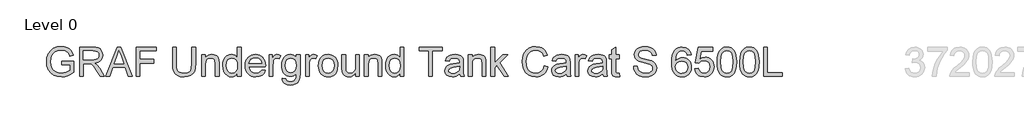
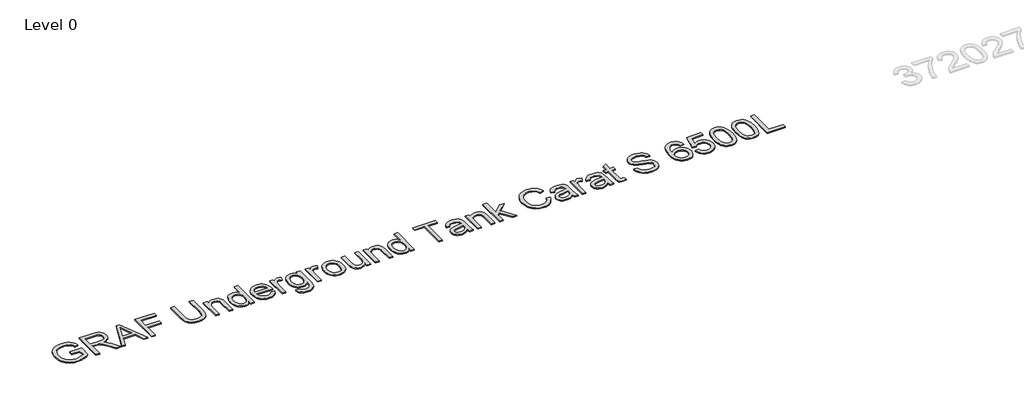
# One storey, part 13 of 20: 1 proxy.
"""IFC4 building model written with IfcOpenShell, lengths in millimetres."""

from ifc_helpers import new_model, si_unit, origin, origin_with_axes, place, context, project, spatial, polyline, outline, extrude, element, save

model = new_model("IFC4")

# Units and contexts
model_context = context("Model", 3, world=origin())
ifc_project = project(units=[si_unit("LENGTHUNIT", "METRE", prefix="MILLI")], contexts=[model_context])

# Site, building, storey
site = spatial("IfcSite", under=ifc_project)
building = spatial("IfcBuilding", under=site)
storey = spatial("IfcBuildingStorey", under=building, Name="Level 0", Elevation=0.0)

# Proxy
placement = place(None, origin())
element("IfcBuildingElementProxy", 1, Name="300mm Arial", ObjectType="300mm Arial", at=placement, inside=storey, context=model_context, shape_type="SweptSolid", body=[
    extrude(outline(polyline([(-14980.9940387, -2583.2545597), (-14980.9940387, -2545.5834434), (-14858.5629107, -2545.5834434), (-14858.5629107, -2658.2289103), (-14888.3153671, -2678.9222726), (-14919.0059225, -2693.7663111), (-14950.5610007, -2702.7058436), (-14982.9070251, -2705.6856877), (-15025.1674693, -2700.949207), (-15063.3628175, -2686.739765), (-15095.0926395, -2663.5540022), (-15117.9565055, -2631.8885595), (-15131.7796715, -2593.9047435), (-15136.3873935, -2551.7638609), (-15131.7980656, -2509.3194757), (-15118.0300819, -2469.8365406), (-15095.6536596, -2436.717964), (-15065.2390156, -2413.3666543), (-15028.1932987, -2399.5158972), (-14985.9236575, -2394.8989782), (-14954.8928112, -2397.5753197), (-14926.9889618, -2405.6043443), (-14903.4904994, -2418.4066377), (-14885.6758138, -2435.4027859), (-14872.4964413, -2457.4113262), (-14862.9039183, -2485.2507962), (-14897.6319786, -2495.0364573), (-14905.3850917, -2475.1800266), (-14914.8120678, -2460.1980323), (-14927.2832674, -2448.9040551), (-14944.169051, -2440.1116754), (-14964.3013932, -2434.4554897), (-14986.5122687, -2432.5700945), (-15012.5123287, -2434.6026425), (-15034.7415982, -2440.7002866), (-15053.1173039, -2450.0996716), (-15067.5566722, -2462.0374423), (-15086.9440533, -2491.0633317), (-15095.7732212, -2519.50061), (-15098.7162772, -2550.2187566), (-15095.175413, -2586.2436009), (-15084.5528204, -2615.8856927), (-15067.1703961, -2638.9334997), (-15043.3500369, -2655.1754898), (-15015.4737787, -2664.804801), (-14985.9236575, -2668.0145714), (-14959.831627, -2665.5957473), (-14934.3833899, -2658.3392749), (-14912.2828791, -2648.3420817), (-14896.234027, -2637.701095), (-14896.234027, -2583.2545597), (-14980.9940387, -2583.2545597)])), origin_with_axes(), (0.0, 0.0, 1.0), 10.0),
    extrude(outline(polyline([(-14797.3473467, -2700.9767982), (-14797.3473467, -2399.6078677), (-14667.4850024, -2399.6078677), (-14632.5821982, -2401.6404158), (-14607.1891434, -2407.7380598), (-14588.6294968, -2418.9952489), (-14574.2269167, -2436.5064318), (-14564.9838815, -2458.2206666), (-14561.9028698, -2482.087011), (-14567.0072325, -2511.7750881), (-14582.3203206, -2536.3863935), (-14593.9200997, -2546.4157764), (-14608.3019865, -2554.4310054), (-14645.4120827, -2564.4190016), (-14624.0013506, -2580.532233), (-14593.467145, -2619.3069952), (-14543.2144645, -2700.9767982), (-14586.9924219, -2700.9767982), (-14626.2086426, -2638.5104354), (-14654.5355562, -2597.1604991), (-14674.4379722, -2577.6259652), (-14692.3538253, -2570.4522663), (-14714.2060158, -2569.1278911), (-14759.6762304, -2569.1278911), (-14759.6762304, -2700.9767982), (-14797.3473467, -2700.9767982)]), holes=[polyline([(-14759.6762304, -2531.4567748), (-14675.3576771, -2531.4567748), (-14651.1418448, -2530.1232026), (-14632.3522719, -2526.1224859), (-14618.2072092, -2519.1879103), (-14607.9249074, -2509.0527613), (-14601.6617165, -2496.7930938), (-14599.5739861, -2483.4849626), (-14603.5563087, -2465.109257), (-14615.5032765, -2450.3020067), (-14636.058683, -2440.5347397), (-14665.8663217, -2437.278984), (-14759.6762304, -2437.278984), (-14759.6762304, -2531.4567748)])]), origin_with_axes(), (0.0, 0.0, 1.0), 10.0),
    extrude(outline(polyline([(-14531.0743586, -2700.9767982), (-14410.7769462, -2399.6078677), (-14378.6976362, -2399.6078677), (-14258.4002238, -2700.9767982), (-14298.2050557, -2700.9767982), (-14332.7123868, -2606.7990074), (-14456.835772, -2606.7990074), (-14491.2695268, -2700.9767982), (-14531.0743586, -2700.9767982)]), holes=[polyline([(-14443.003409, -2569.1278911), (-14346.4711735, -2569.1278911), (-14373.6208647, -2495.0364573), (-14394.7372912, -2437.278984), (-14413.499273, -2488.5617342), (-14443.003409, -2569.1278911)])]), origin_with_axes(), (0.0, 0.0, 1.0), 10.0),
    extrude(outline(polyline([(-14218.1539335, -2700.9767982), (-14218.1539335, -2399.6078677), (-14015.6716834, -2399.6078677), (-14015.6716834, -2437.278984), (-14180.4828172, -2437.278984), (-14180.4828172, -2526.7478853), (-14039.2161311, -2526.7478853), (-14039.2161311, -2564.4190016), (-14180.4828172, -2564.4190016), (-14180.4828172, -2700.9767982), (-14218.1539335, -2700.9767982)])), origin_with_axes(), (0.0, 0.0, 1.0), 10.0),
    extrude(outline(polyline([(-13648.3782994, -2399.6078677), (-13610.7071831, -2399.6078677), (-13610.7071831, -2573.4688986), (-13613.263963, -2614.1842385), (-13620.9343026, -2645.5369815), (-13635.2633063, -2669.7252227), (-13657.7960785, -2688.9470569), (-13688.5878015, -2701.50103), (-13727.6936576, -2705.6856877), (-13765.944188, -2702.043656), (-13796.5243789, -2691.1175607), (-13819.4434272, -2673.284481), (-13834.71053, -2648.9214959), (-13843.2913775, -2616.2443776), (-13846.15166, -2573.4688986), (-13846.15166, -2399.6078677), (-13808.4805437, -2399.6078677), (-13808.4805437, -2572.1445235), (-13806.6227396, -2605.9988641), (-13801.0493274, -2629.5709029), (-13790.9509666, -2645.8956665), (-13775.5183169, -2658.0081811), (-13755.3951718, -2665.5129738), (-13731.2253247, -2668.0145714), (-13692.9104149, -2663.0665586), (-13678.5676156, -2656.8815425), (-13667.4345868, -2648.2225201), (-13659.097461, -2636.045626), (-13653.1423712, -2619.3069952), (-13648.3782994, -2572.1445235), (-13648.3782994, -2399.6078677)])), origin_with_axes(), (0.0, 0.0, 1.0), 10.0),
    extrude(outline(polyline([(-13549.4916191, -2700.9767982), (-13549.4916191, -2479.6589899), (-13511.8205028, -2479.6589899), (-13511.8205028, -2510.5610775), (-13498.7331008, -2494.981275), (-13483.0153426, -2483.8528446), (-13464.6672281, -2477.1757864), (-13443.6887573, -2474.9501003), (-13425.1199136, -2476.7435251), (-13408.1145684, -2482.1237992), (-13393.9327174, -2490.4195382), (-13383.8343567, -2500.9593574), (-13372.5403794, -2528.6608716), (-13370.5538167, -2565.0811892), (-13370.5538167, -2700.9767982), (-13408.224933, -2700.9767982), (-13408.224933, -2570.1579607), (-13412.5659405, -2536.8278519), (-13418.5716141, -2526.9042351), (-13427.9066197, -2519.2063044), (-13439.8719816, -2514.2674886), (-13453.768724, -2512.6212166), (-13475.8324466, -2516.3184307), (-13494.6404136, -2527.4100729), (-13502.1567026, -2536.4645685), (-13507.5254805, -2548.8391991), (-13511.8205028, -2583.5488653), (-13511.8205028, -2700.9767982), (-13549.4916191, -2700.9767982)])), origin_with_axes(), (0.0, 0.0, 1.0), 10.0),
    extrude(outline(polyline([(-13182.1982351, -2700.9767982), (-13182.1982351, -2665.4393974), (-13193.4692197, -2683.0471494), (-13207.1222403, -2695.6241151), (-13223.1572968, -2703.1702946), (-13241.5743891, -2705.6856877), (-13265.9281772, -2702.043656), (-13288.2218261, -2691.1175607), (-13307.0941725, -2673.6707571), (-13321.1840529, -2650.4666002), (-13329.9580385, -2622.4431893), (-13332.8827003, -2590.5386232), (-13330.1879647, -2559.0295303), (-13322.1037579, -2530.573858), (-13308.6392769, -2506.790287), (-13289.8037187, -2489.2974982), (-13267.0226262, -2478.5369498), (-13241.7215419, -2474.9501003), (-13223.290654, -2477.5160773), (-13206.9934816, -2485.214008), (-13193.1795127, -2497.013823), (-13182.1982351, -2511.8854527), (-13182.1982351, -2399.6078677), (-13144.5271188, -2399.6078677), (-13144.5271188, -2700.9767982), (-13182.1982351, -2700.9767982)]), holes=[polyline([(-13295.211584, -2590.3914704), (-13290.962547, -2624.4665402), (-13278.2154359, -2648.7007667), (-13259.6925774, -2663.1861202), (-13238.1162984, -2668.0145714), (-13216.5492164, -2663.4068494), (-13198.4954075, -2649.5836835), (-13186.2725282, -2626.2875561), (-13182.1982351, -2593.26095), (-13186.3461046, -2557.1533322), (-13198.7897131, -2532.1189624), (-13217.3033745, -2517.4956531), (-13239.6614028, -2512.6212166), (-13261.458411, -2517.302515), (-13279.3190818, -2531.3464102), (-13291.2384585, -2555.470272), (-13295.211584, -2590.3914704)])]), origin_with_axes(), (0.0, 0.0, 1.0), 10.0),
    extrude(outline(polyline([(-12933.068548, -2635.0523446), (-12896.1331957, -2639.7612342), (-12909.4413268, -2667.5915071), (-12930.677315, -2688.3952339), (-12959.3629136, -2701.3630743), (-12995.019876, -2705.6856877), (-13018.3941782, -2703.8209859), (-13039.2208977, -2698.2268803), (-13057.5000343, -2688.9033709), (-13073.2315881, -2675.8504579), (-13085.8821303, -2659.4314246), (-13094.9182318, -2640.0095545), (-13100.3398927, -2617.5848477), (-13102.147113, -2592.157304), (-13100.3214986, -2565.8675369), (-13094.8446554, -2542.6955698), (-13085.7165834, -2522.6414025), (-13072.9372826, -2505.7050351), (-13057.2471155, -2492.2497512), (-13039.3864446, -2482.638834), (-13019.35527, -2476.8722838), (-12997.1535915, -2474.9501003), (-12975.6669838, -2476.8676852), (-12956.2359166, -2482.6204399), (-12938.8603901, -2492.2083644), (-12923.5404043, -2505.6314587), (-12911.0347157, -2522.5310379), (-12902.102081, -2542.548417), (-12896.7425002, -2565.6835959), (-12894.9559733, -2591.9365748), (-12895.1767025, -2602.0901179), (-13064.4759967, -2602.0901179), (-13057.9552883, -2630.2882728), (-13042.8077471, -2651.0184232), (-13020.9463596, -2663.7655344), (-12994.284112, -2668.0145714), (-12974.2345432, -2666.0464027), (-12957.3487597, -2660.1418967), (-12943.6267612, -2649.9331713), (-12933.068548, -2635.0523446)]), holes=[polyline([(-13064.4759967, -2564.4190016), (-12932.6270896, -2564.4190016), (-12937.7222552, -2544.5165856), (-12947.7102514, -2530.2795524), (-12969.6728065, -2517.0358006), (-12997.3007443, -2512.6212166), (-13022.6937991, -2516.1436868), (-13043.6906639, -2526.7110971), (-13058.2863821, -2543.1830134), (-13064.4759967, -2564.4190016)])]), origin_with_axes(), (0.0, 0.0, 1.0), 10.0),
    extrude(outline(polyline([(-12857.284857, -2700.9767982), (-12857.284857, -2479.6589899), (-12824.3226302, -2479.6589899), (-12824.3226302, -2512.4004875), (-12812.1457362, -2493.4177765), (-12800.9253353, -2482.2341638), (-12789.6681463, -2476.7711162), (-12777.3808876, -2474.9501003), (-12758.6189059, -2477.8563681), (-12739.5626185, -2486.5751714), (-12752.1441828, -2520.3467385), (-12765.3879346, -2514.5525971), (-12778.6316864, -2512.6212166), (-12789.8796784, -2514.4790207), (-12799.9320539, -2520.052433), (-12808.053049, -2528.918389), (-12813.5068996, -2540.6538247), (-12818.0870304, -2561.6966748), (-12819.6137407, -2584.6525113), (-12819.6137407, -2700.9767982), (-12857.284857, -2700.9767982)])), origin_with_axes(), (0.0, 0.0, 1.0), 10.0),
    extrude(outline(polyline([(-12725.4359499, -2719.8123563), (-12687.7648336, -2724.5212459), (-12683.6077671, -2736.2934697), (-12675.5511514, -2744.3868736), (-12659.7138315, -2750.6776557), (-12638.983681, -2752.7745831), (-12616.8739731, -2750.4017442), (-12600.4296479, -2743.2832276), (-12589.0253061, -2731.8788858), (-12582.0355482, -2716.6485712), (-12579.4603742, -2672.7234609), (-12591.9959532, -2685.084296), (-12605.9846661, -2693.9134639), (-12621.4265128, -2699.2109646), (-12638.3214935, -2700.9767982), (-12658.9757682, -2698.9212575), (-12677.1606351, -2692.7546356), (-12692.8760941, -2682.4769323), (-12706.1221452, -2668.0881478), (-12716.6320739, -2650.8252852), (-12724.1391659, -2631.9253477), (-12728.6434211, -2611.3883353), (-12730.1448394, -2589.214248), (-12727.4501038, -2558.7996041), (-12719.365897, -2530.8313754), (-12706.1773275, -2507.1305779), (-12688.1695038, -2489.5182274), (-12665.9586283, -2478.5921321), (-12640.1609034, -2474.9501003), (-12622.5439544, -2477.0102395), (-12606.5548832, -2483.190657), (-12592.1936898, -2493.4913529), (-12579.4603742, -2507.9123271), (-12579.4603742, -2479.6589899), (-12541.7892579, -2479.6589899), (-12541.7892579, -2670.7368982), (-12544.3644319, -2714.8551464), (-12552.0899538, -2743.908627), (-12565.398085, -2763.1764465), (-12584.7210868, -2777.9377116), (-12609.6358949, -2787.3187024), (-12639.719445, -2790.4456994), (-12674.7694021, -2786.0403125), (-12702.3697488, -2772.8241518), (-12712.7647144, -2762.9028343), (-12720.0740698, -2750.7604292), (-12724.297815, -2736.3969365), (-12725.4359499, -2719.8123563)]), holes=[polyline([(-12692.4737231, -2586.6390741), (-12688.4546123, -2621.1923905), (-12676.39728, -2644.9483703), (-12658.2698946, -2658.716354), (-12636.0406251, -2663.3056819), (-12613.9769024, -2658.7439451), (-12595.7575466, -2645.0587349), (-12583.5346673, -2621.6062577), (-12579.4603742, -2587.7427201), (-12583.654229, -2555.0839959), (-12596.2357932, -2531.5671394), (-12614.7218635, -2517.3576973), (-12636.6292363, -2512.6212166), (-12658.1411359, -2517.2841209), (-12676.1765508, -2531.2728338), (-12688.39943, -2554.4402024), (-12692.4737231, -2586.6390741)])]), origin_with_axes(), (0.0, 0.0, 1.0), 10.0),
    extrude(outline(polyline([(-12485.2825835, -2700.9767982), (-12485.2825835, -2479.6589899), (-12452.3203567, -2479.6589899), (-12452.3203567, -2512.4004875), (-12440.1434626, -2493.4177765), (-12428.9230618, -2482.2341638), (-12417.6658727, -2476.7711162), (-12405.3786141, -2474.9501003), (-12386.6166324, -2477.8563681), (-12367.560345, -2486.5751714), (-12380.1419092, -2520.3467385), (-12393.3856611, -2514.5525971), (-12406.6294129, -2512.6212166), (-12417.8774049, -2514.4790207), (-12427.9297804, -2520.052433), (-12436.0507755, -2528.918389), (-12441.504626, -2540.6538247), (-12446.0847569, -2561.6966748), (-12447.6114672, -2584.6525113), (-12447.6114672, -2700.9767982), (-12485.2825835, -2700.9767982)])), origin_with_axes(), (0.0, 0.0, 1.0), 10.0),
    extrude(outline(polyline([(-12353.4336764, -2590.317894), (-12351.3965298, -2561.6552881), (-12345.2850902, -2536.9566106), (-12335.0993575, -2516.2218617), (-12320.8393316, -2499.4510412), (-12306.4827368, -2488.7318796), (-12290.6362198, -2481.0753356), (-12273.2997808, -2476.4814091), (-12254.4734197, -2474.9501003), (-12233.6903862, -2476.8148022), (-12214.8985141, -2482.4089078), (-12198.0978032, -2491.7324171), (-12183.2882536, -2504.7853302), (-12171.2010308, -2521.1261885), (-12162.5673002, -2540.3135338), (-12157.3870619, -2562.3473661), (-12155.6603158, -2587.2276853), (-12158.7137363, -2625.2850777), (-12167.873998, -2654.2557848), (-12182.8743864, -2675.9516255), (-12203.448187, -2692.1844185), (-12227.8847485, -2702.3103704), (-12254.4734197, -2705.6856877), (-12275.5599558, -2703.8278836), (-12294.5265719, -2698.2544714), (-12311.373268, -2688.965451), (-12326.1000441, -2675.9608225), (-12338.0585082, -2659.461315), (-12346.6002683, -2639.6876578), (-12351.7253244, -2616.6398508), (-12353.4336764, -2590.317894)]), holes=[polyline([(-12315.7625601, -2590.2443176), (-12311.4031584, -2624.3377815), (-12298.3249535, -2648.6271903), (-12278.6432668, -2663.1677261), (-12254.4734197, -2668.0145714), (-12230.4139372, -2663.140135), (-12210.7690387, -2648.5168257), (-12197.6908337, -2623.9055202), (-12193.3314321, -2589.0670952), (-12197.7184249, -2555.9669127), (-12210.8794033, -2532.0085978), (-12230.5518929, -2517.4680619), (-12254.4734197, -2512.6212166), (-12278.6432668, -2517.4496678), (-12298.3249535, -2531.9350214), (-12311.4031584, -2556.1692478), (-12315.7625601, -2590.2443176)])]), origin_with_axes(), (0.0, 0.0, 1.0), 10.0),
    extrude(outline(polyline([(-11972.0136238, -2700.9767982), (-11972.0136238, -2662.9377999), (-11985.6436517, -2681.6400008), (-12001.5177598, -2694.9987158), (-12019.6359481, -2703.0139447), (-12039.9982165, -2705.6856877), (-12058.346331, -2703.8094895), (-12075.4252526, -2698.180895), (-12089.7542563, -2689.7196091), (-12099.8526171, -2679.3453369), (-12111.073018, -2651.6070344), (-12113.2803099, -2616.5846685), (-12113.2803099, -2479.6589899), (-12075.6091936, -2479.6589899), (-12075.6091936, -2598.8527563), (-12073.3283253, -2637.2596366), (-12067.8376865, -2650.0711271), (-12058.4291045, -2659.8108029), (-12045.7279786, -2665.9636293), (-12030.3597082, -2668.0145714), (-12014.1085211, -2665.917644), (-11998.9057976, -2659.6268619), (-11986.3702186, -2649.7216392), (-11978.1204649, -2636.78139), (-11973.5403341, -2619.0586749), (-11972.0136238, -2594.8060544), (-11972.0136238, -2479.6589899), (-11934.3425075, -2479.6589899), (-11934.3425075, -2700.9767982), (-11972.0136238, -2700.9767982)])), origin_with_axes(), (0.0, 0.0, 1.0), 10.0),
    extrude(outline(polyline([(-11882.5447226, -2700.9767982), (-11882.5447226, -2479.6589899), (-11844.8736063, -2479.6589899), (-11844.8736063, -2510.5610775), (-11831.7862043, -2494.981275), (-11816.068446, -2483.8528446), (-11797.7203315, -2477.1757864), (-11776.7418607, -2474.9501003), (-11758.173017, -2476.7435251), (-11741.1676718, -2482.1237992), (-11726.9858209, -2490.4195382), (-11716.8874601, -2500.9593574), (-11705.5934829, -2528.6608716), (-11703.6069201, -2565.0811892), (-11703.6069201, -2700.9767982), (-11741.2780364, -2700.9767982), (-11741.2780364, -2570.1579607), (-11745.619044, -2536.8278519), (-11751.6247175, -2526.9042351), (-11760.9597232, -2519.2063044), (-11772.925085, -2514.2674886), (-11786.8218274, -2512.6212166), (-11808.8855501, -2516.3184307), (-11827.6935171, -2527.4100729), (-11835.2098061, -2536.4645685), (-11840.578584, -2548.8391991), (-11844.8736063, -2583.5488653), (-11844.8736063, -2700.9767982), (-11882.5447226, -2700.9767982)])), origin_with_axes(), (0.0, 0.0, 1.0), 10.0),
    extrude(outline(polyline([(-11515.2513386, -2700.9767982), (-11515.2513386, -2665.4393974), (-11526.5223232, -2683.0471494), (-11540.1753437, -2695.6241151), (-11556.2104002, -2703.1702946), (-11574.6274926, -2705.6856877), (-11598.9812807, -2702.043656), (-11621.2749296, -2691.1175607), (-11640.1472759, -2673.6707571), (-11654.2371564, -2650.4666002), (-11663.0111419, -2622.4431893), (-11665.9358038, -2590.5386232), (-11663.2410682, -2559.0295303), (-11655.1568613, -2530.573858), (-11641.6923803, -2506.790287), (-11622.8568222, -2489.2974982), (-11600.0757296, -2478.5369498), (-11574.7746454, -2474.9501003), (-11556.3437574, -2477.5160773), (-11540.046585, -2485.214008), (-11526.2326161, -2497.013823), (-11515.2513386, -2511.8854527), (-11515.2513386, -2399.6078677), (-11477.5802223, -2399.6078677), (-11477.5802223, -2700.9767982), (-11515.2513386, -2700.9767982)]), holes=[polyline([(-11628.2646875, -2590.3914704), (-11624.0156504, -2624.4665402), (-11611.2685393, -2648.7007667), (-11592.7456809, -2663.1861202), (-11571.1694018, -2668.0145714), (-11549.6023199, -2663.4068494), (-11531.548511, -2649.5836835), (-11519.3256317, -2626.2875561), (-11515.2513386, -2593.26095), (-11519.3992081, -2557.1533322), (-11531.8428166, -2532.1189624), (-11550.356478, -2517.4956531), (-11572.7145062, -2512.6212166), (-11594.5115144, -2517.302515), (-11612.3721853, -2531.3464102), (-11624.2915619, -2555.470272), (-11628.2646875, -2590.3914704)])]), origin_with_axes(), (0.0, 0.0, 1.0), 10.0),
    extrude(outline(polyline([(-11223.3001872, -2700.9767982), (-11223.3001872, -2437.278984), (-11322.1868675, -2437.278984), (-11322.1868675, -2399.6078677), (-11086.7423906, -2399.6078677), (-11086.7423906, -2437.278984), (-11185.6290709, -2437.278984), (-11185.6290709, -2700.9767982), (-11223.3001872, -2700.9767982)])), origin_with_axes(), (0.0, 0.0, 1.0), 10.0),
    extrude(outline(polyline([(-10907.8045881, -2672.7234609), (-10925.8032148, -2688.1561106), (-10944.3352703, -2698.2544714), (-10963.823819, -2703.8278836), (-10984.6919251, -2705.6856877), (-11016.1734269, -2701.2159215), (-11039.3959778, -2687.8066228), (-11053.7157845, -2667.4443543), (-11058.4890534, -2642.1156789), (-11056.6864316, -2626.4990883), (-11051.2785663, -2612.3172373), (-11042.936842, -2600.1771315), (-11032.3326435, -2590.685776), (-11005.9555045, -2578.324941), (-10973.3611597, -2572.6595583), (-10934.8439148, -2566.6998699), (-10908.0253173, -2559.710112), (-10907.8045881, -2551.3224025), (-10910.3981562, -2534.5101954), (-10918.1788604, -2523.5105237), (-10935.5796788, -2515.3435434), (-10959.8231023, -2512.6212166), (-10982.263904, -2514.4330355), (-10997.935677, -2519.868492), (-11008.6226489, -2529.9208675), (-11016.1090475, -2545.5834434), (-11053.7801638, -2540.8745539), (-11047.2410614, -2520.2731621), (-11037.4829914, -2504.0863544), (-11023.5954461, -2491.7071252), (-11004.6679175, -2482.5284694), (-10981.5189429, -2476.8446926), (-10954.9670599, -2474.9501003), (-10929.5004288, -2476.6239634), (-10909.3129043, -2481.6455527), (-10894.0917868, -2489.1963306), (-10883.5243765, -2498.4577598), (-10876.5162244, -2509.9080869), (-10871.9728818, -2524.0255585), (-10870.1334718, -2556.9877853), (-10870.1334718, -2603.8559515), (-10868.2204855, -2669.3021584), (-10860.7156928, -2700.9767982), (-10898.3868091, -2700.9767982), (-10907.8045881, -2672.7234609)]), holes=[polyline([(-10907.8045881, -2597.3812283), (-10968.5786937, -2608.932723), (-11000.9890975, -2615.0395641), (-11015.6675891, -2624.972378), (-11020.8179371, -2639.4669286), (-11018.0128368, -2650.6689353), (-11009.5975362, -2659.8475911), (-10995.7559761, -2665.9728263), (-10976.6720976, -2668.0145714), (-10956.4385879, -2665.7612942), (-10938.5595229, -2659.0014625), (-10924.0649723, -2649.0410575), (-10913.9850057, -2637.1860602), (-10909.5152394, -2624.972378), (-10908.0253173, -2608.0498062), (-10907.8045881, -2597.3812283)])]), origin_with_axes(), (0.0, 0.0, 1.0), 10.0),
    extrude(outline(polyline([(-10818.3356869, -2700.9767982), (-10818.3356869, -2479.6589899), (-10780.6645706, -2479.6589899), (-10780.6645706, -2510.5610775), (-10767.5771686, -2494.981275), (-10751.8594104, -2483.8528446), (-10733.5112959, -2477.1757864), (-10712.5328251, -2474.9501003), (-10693.9639814, -2476.7435251), (-10676.9586362, -2482.1237992), (-10662.7767853, -2490.4195382), (-10652.6784245, -2500.9593574), (-10641.3844472, -2528.6608716), (-10639.3978845, -2565.0811892), (-10639.3978845, -2700.9767982), (-10677.0690008, -2700.9767982), (-10677.0690008, -2570.1579607), (-10681.4100083, -2536.8278519), (-10687.4156819, -2526.9042351), (-10696.7506875, -2519.2063044), (-10708.7160494, -2514.2674886), (-10722.6127918, -2512.6212166), (-10744.6765144, -2516.3184307), (-10763.4844814, -2527.4100729), (-10771.0007704, -2536.4645685), (-10776.3695483, -2548.8391991), (-10780.6645706, -2583.5488653), (-10780.6645706, -2700.9767982), (-10818.3356869, -2700.9767982)])), origin_with_axes(), (0.0, 0.0, 1.0), 10.0),
    extrude(outline(polyline([(-10587.6000995, -2700.9767982), (-10587.6000995, -2399.6078677), (-10549.9289832, -2399.6078677), (-10549.9289832, -2561.549522), (-10465.4632771, -2479.6589899), (-10413.3711866, -2479.6589899), (-10498.8669623, -2562.5795916), (-10408.6622971, -2700.9767982), (-10452.6609837, -2700.9767982), (-10525.8695007, -2588.7727896), (-10549.9289832, -2612.0965081), (-10549.9289832, -2700.9767982), (-10587.6000995, -2700.9767982)])), origin_with_axes(), (0.0, 0.0, 1.0), 10.0),
    extrude(outline(polyline([(-10041.3689131, -2593.8495612), (-10003.6977968, -2603.5616459), (-10011.1520057, -2626.9888312), (-10021.0802211, -2647.4591649), (-10033.4824428, -2664.9726472), (-10048.358671, -2679.5292779), (-10065.3732133, -2690.9727072), (-10084.1903773, -2699.1465853), (-10104.8101632, -2704.0509121), (-10127.2325708, -2705.6856877), (-10170.9277547, -2700.7376749), (-10205.6282239, -2685.8936364), (-10232.2260922, -2661.668607), (-10251.6134733, -2628.5776215), (-10263.4500765, -2589.6741005), (-10267.3956109, -2548.0114646), (-10262.9350417, -2504.0679603), (-10249.5533342, -2466.1209325), (-10227.949464, -2435.3751947), (-10198.822407, -2413.0355606), (-10164.2782877, -2399.4331238), (-10126.4232304, -2394.8989782), (-10085.1192794, -2400.766696), (-10067.1505432, -2408.1013433), (-10050.9706332, -2418.3698495), (-10036.8462638, -2431.3009016), (-10025.0441496, -2446.6231867), (-10008.4066863, -2484.4414558), (-10046.0778026, -2493.4177765), (-10059.1376135, -2465.9461885), (-10076.9798902, -2447.1014333), (-10099.8253621, -2436.2029292), (-10127.8947584, -2432.5700945), (-10160.2499798, -2436.5984023), (-10186.829454, -2448.6833259), (-10206.9985844, -2467.5556722), (-10220.1227746, -2491.9462485), (-10227.3240646, -2519.5190041), (-10229.7244946, -2547.9378882), (-10226.8826062, -2582.7395249), (-10218.356941, -2612.8322721), (-10203.8256022, -2637.0664986), (-10182.966693, -2654.292573), (-10157.9599144, -2664.5840718), (-10130.9849671, -2668.0145714), (-10099.5402536, -2663.3424701), (-10073.3378585, -2649.3261661), (-10053.5550042, -2626.1128122), (-10041.3689131, -2593.8495612)])), origin_with_axes(), (0.0, 0.0, 1.0), 10.0),
    extrude(outline(polyline([(-9815.3422153, -2672.7234609), (-9833.3408419, -2688.1561106), (-9851.8728974, -2698.2544714), (-9871.3614461, -2703.8278836), (-9892.2295523, -2705.6856877), (-9923.711054, -2701.2159215), (-9946.9336049, -2687.8066228), (-9961.2534116, -2667.4443543), (-9966.0266805, -2642.1156789), (-9964.2240587, -2626.4990883), (-9958.8161934, -2612.3172373), (-9950.4744691, -2600.1771315), (-9939.8702706, -2590.685776), (-9913.4931316, -2578.324941), (-9880.8987868, -2572.6595583), (-9842.3815419, -2566.6998699), (-9815.5629445, -2559.710112), (-9815.3422153, -2551.3224025), (-9817.9357833, -2534.5101954), (-9825.7164875, -2523.5105237), (-9843.1173059, -2515.3435434), (-9867.3607294, -2512.6212166), (-9889.8015311, -2514.4330355), (-9905.4733041, -2519.868492), (-9916.160276, -2529.9208675), (-9923.6466746, -2545.5834434), (-9961.3177909, -2540.8745539), (-9954.7786885, -2520.2731621), (-9945.0206186, -2504.0863544), (-9931.1330732, -2491.7071252), (-9912.2055446, -2482.5284694), (-9889.05657, -2476.8446926), (-9862.504687, -2474.9501003), (-9837.0380559, -2476.6239634), (-9816.8505314, -2481.6455527), (-9801.6294139, -2489.1963306), (-9791.0620036, -2498.4577598), (-9784.0538516, -2509.9080869), (-9779.5105089, -2524.0255585), (-9777.671099, -2556.9877853), (-9777.671099, -2603.8559515), (-9775.7581126, -2669.3021584), (-9768.2533199, -2700.9767982), (-9805.9244362, -2700.9767982), (-9815.3422153, -2672.7234609)]), holes=[polyline([(-9815.3422153, -2597.3812283), (-9876.1163209, -2608.932723), (-9908.5267246, -2615.0395641), (-9923.2052162, -2624.972378), (-9928.3555642, -2639.4669286), (-9925.550464, -2650.6689353), (-9917.1351633, -2659.8475911), (-9903.2936033, -2665.9728263), (-9884.2097248, -2668.0145714), (-9863.976215, -2665.7612942), (-9846.0971501, -2659.0014625), (-9831.6025994, -2649.0410575), (-9821.5226328, -2637.1860602), (-9817.0528665, -2624.972378), (-9815.5629445, -2608.0498062), (-9815.3422153, -2597.3812283)])]), origin_with_axes(), (0.0, 0.0, 1.0), 10.0),
    extrude(outline(polyline([(-9725.873314, -2700.9767982), (-9725.873314, -2479.6589899), (-9692.9110873, -2479.6589899), (-9692.9110873, -2512.4004875), (-9680.7341932, -2493.4177765), (-9669.5137924, -2482.2341638), (-9658.2566033, -2476.7711162), (-9645.9693447, -2474.9501003), (-9627.2073629, -2477.8563681), (-9608.1510756, -2486.5751714), (-9620.7326398, -2520.3467385), (-9633.9763916, -2514.5525971), (-9647.2201435, -2512.6212166), (-9658.4681355, -2514.4790207), (-9668.520511, -2520.052433), (-9676.641506, -2528.918389), (-9682.0953566, -2540.6538247), (-9686.6754874, -2561.6966748), (-9688.2021977, -2584.6525113), (-9688.2021977, -2700.9767982), (-9725.873314, -2700.9767982)])), origin_with_axes(), (0.0, 0.0, 1.0), 10.0),
    extrude(outline(polyline([(-9443.3399417, -2672.7234609), (-9461.3385684, -2688.1561106), (-9479.8706239, -2698.2544714), (-9499.3591726, -2703.8278836), (-9520.2272787, -2705.6856877), (-9551.7087805, -2701.2159215), (-9574.9313314, -2687.8066228), (-9589.2511381, -2667.4443543), (-9594.024407, -2642.1156789), (-9592.2217852, -2626.4990883), (-9586.8139199, -2612.3172373), (-9578.4721956, -2600.1771315), (-9567.8679971, -2590.685776), (-9541.4908581, -2578.324941), (-9508.8965133, -2572.6595583), (-9470.3792684, -2566.6998699), (-9443.5606709, -2559.710112), (-9443.3399417, -2551.3224025), (-9445.9335098, -2534.5101954), (-9453.714214, -2523.5105237), (-9471.1150324, -2515.3435434), (-9495.3584559, -2512.6212166), (-9517.7992576, -2514.4330355), (-9533.4710306, -2519.868492), (-9544.1580025, -2529.9208675), (-9551.6444011, -2545.5834434), (-9589.3155174, -2540.8745539), (-9582.776415, -2520.2731621), (-9573.018345, -2504.0863544), (-9559.1307997, -2491.7071252), (-9540.2032711, -2482.5284694), (-9517.0542965, -2476.8446926), (-9490.5024135, -2474.9501003), (-9465.0357824, -2476.6239634), (-9444.8482579, -2481.6455527), (-9429.6271404, -2489.1963306), (-9419.0597301, -2498.4577598), (-9412.051578, -2509.9080869), (-9407.5082354, -2524.0255585), (-9405.6688254, -2556.9877853), (-9405.6688254, -2603.8559515), (-9403.7558391, -2669.3021584), (-9396.2510464, -2700.9767982), (-9433.9221627, -2700.9767982), (-9443.3399417, -2672.7234609)]), holes=[polyline([(-9443.3399417, -2597.3812283), (-9504.1140473, -2608.932723), (-9536.5244511, -2615.0395641), (-9551.2029427, -2624.972378), (-9556.3532907, -2639.4669286), (-9553.5481904, -2650.6689353), (-9545.1328898, -2659.8475911), (-9531.2913297, -2665.9728263), (-9512.2074512, -2668.0145714), (-9491.9739415, -2665.7612942), (-9474.0948765, -2659.0014625), (-9459.6003259, -2649.0410575), (-9449.5203593, -2637.1860602), (-9445.050593, -2624.972378), (-9443.5606709, -2608.0498062), (-9443.3399417, -2597.3812283)])]), origin_with_axes(), (0.0, 0.0, 1.0), 10.0),
    extrude(outline(polyline([(-9273.8199184, -2669.5596758), (-9269.1110288, -2702.0804442), (-9297.2907897, -2705.6856877), (-9315.3721897, -2704.1221892), (-9328.8550648, -2699.4316938), (-9338.3832085, -2692.2028126), (-9344.6004142, -2683.0241568), (-9348.0217168, -2667.2604133), (-9349.162151, -2640.276269), (-9349.162151, -2517.3301062), (-9377.4154882, -2517.3301062), (-9377.4154882, -2479.6589899), (-9349.162151, -2479.6589899), (-9349.162151, -2425.8746422), (-9311.4910347, -2403.7281461), (-9311.4910347, -2479.6589899), (-9273.8199184, -2479.6589899), (-9273.8199184, -2517.3301062), (-9311.4910347, -2517.3301062), (-9311.4910347, -2639.172623), (-9309.5044719, -2658.5967923), (-9303.066537, -2665.4761856), (-9290.2274553, -2668.0145714), (-9273.8199184, -2669.5596758)])), origin_with_axes(), (0.0, 0.0, 1.0), 10.0),
    extrude(outline(polyline([(-9127.8443427, -2597.3812283), (-9090.1732264, -2597.3812283), (-9085.8506129, -2618.2861227), (-9078.0331205, -2635.0891328), (-9065.8378324, -2648.4248552), (-9048.3818317, -2658.9278861), (-9027.044676, -2665.7429001), (-9003.2059227, -2668.0145714), (-8982.2182549, -2666.2947231), (-8963.8425492, -2661.1351781), (-8948.9525255, -2652.9681978), (-8938.4219034, -2642.2260435), (-8932.1587124, -2629.8927997), (-8930.0709821, -2616.9525505), (-8931.6344805, -2604.3433951), (-8936.324976, -2593.444891), (-8945.8531197, -2584.1466736), (-8961.9295629, -2576.3383782), (-9016.7807683, -2561.9541922), (-9052.7872186, -2552.4352456), (-9075.8258286, -2543.3761514), (-9094.5786133, -2530.7026167), (-9107.8683503, -2515.3435434), (-9115.7870103, -2497.6300253), (-9118.4265636, -2477.8931563), (-9115.1616109, -2455.8294336), (-9105.3667528, -2435.2556331), (-9089.2995066, -2417.8180265), (-9067.2173899, -2405.1628859), (-9040.7114921, -2397.4649551), (-9011.372903, -2394.8989782), (-8979.5878986, -2397.5845168), (-8951.7760198, -2405.6411325), (-8928.9305479, -2418.9032784), (-8912.0447643, -2437.2054076), (-8901.3577923, -2459.407086), (-8897.1087553, -2484.3678794), (-8934.7798716, -2484.3678794), (-8941.6960531, -2461.8902895), (-8956.1170273, -2445.6666935), (-8978.6497995, -2435.8442443), (-9009.901375, -2432.5700945), (-9041.8887145, -2435.8074561), (-9063.8328755, -2445.5195407), (-9076.5248043, -2459.8117562), (-9080.7554473, -2476.7895103), (-9077.757209, -2491.2656668), (-9068.7624942, -2502.909132), (-9047.4989149, -2513.3201924), (-9007.2526247, -2523.9519821), (-8965.7187474, -2534.0503429), (-8940.5924071, -2542.8611167), (-8919.1172957, -2556.5279328), (-8904.1353014, -2573.3953223), (-8895.3337247, -2593.2793441), (-8892.3998658, -2615.9960573), (-8895.7751831, -2639.2186082), (-8905.901135, -2661.0616017), (-8922.3638543, -2679.8603717), (-8944.7494737, -2693.9502521), (-8971.6692387, -2702.7518288), (-9001.7343947, -2705.6856877), (-9038.6421559, -2702.5219026), (-9069.0200116, -2693.0305471), (-9093.2174499, -2677.1748331), (-9111.5839585, -2654.9179724), (-9123.3745764, -2627.8050693), (-9127.8443427, -2597.3812283)])), origin_with_axes(), (0.0, 0.0, 1.0), 10.0),
    extrude(outline(polyline([(-8539.2331504, -2479.6589899), (-8576.9042667, -2484.3678794), (-8582.9743196, -2465.6978682), (-8591.1780881, -2452.950757), (-8608.2662068, -2441.1969273), (-8628.9227808, -2437.278984), (-8646.4339638, -2439.5598524), (-8662.9150772, -2446.4024575), (-8677.0693369, -2460.8142347), (-8688.6300286, -2480.6522713), (-8696.438324, -2508.7124704), (-8699.3353947, -2547.7907354), (-8684.2246417, -2530.1599908), (-8666.1156505, -2517.7347764), (-8646.0200965, -2510.3679394), (-8624.9496553, -2507.9123271), (-8606.8498611, -2509.5907887), (-8590.1480185, -2514.6261735), (-8574.8441275, -2523.0184815), (-8560.9381881, -2534.7677128), (-8549.3820949, -2549.1748914), (-8541.1277427, -2565.5410417), (-8536.1751313, -2583.8661635), (-8534.5242609, -2604.150257), (-8537.6328637, -2631.1252043), (-8546.9586723, -2656.131983), (-8561.7291344, -2677.34038), (-8581.1716978, -2692.9201825), (-8604.4034458, -2702.4943114), (-8630.5414616, -2705.6856877), (-8652.9983581, -2703.5703662), (-8673.2801524, -2697.2244018), (-8691.3868443, -2686.6477945), (-8707.318434, -2671.8405442), (-8720.3069677, -2652.1772515), (-8729.5844917, -2627.0325171), (-8735.1510062, -2596.406341), (-8737.006511, -2560.2987232), (-8734.9463718, -2519.8179082), (-8728.7659543, -2485.2691903), (-8718.4652584, -2456.6525696), (-8704.0442842, -2433.9680461), (-8688.413898, -2418.9354681), (-8670.2911112, -2408.1979123), (-8649.6759239, -2401.7553789), (-8626.568336, -2399.6078677), (-8593.5141388, -2404.9237626), (-8567.0450292, -2420.8714471), (-8548.5037767, -2446.2001224), (-8539.2331504, -2479.6589899)]), holes=[polyline([(-8699.3353947, -2603.5616459), (-8697.1556939, -2620.2542914), (-8690.6165914, -2636.1927788), (-8680.4630483, -2649.8963831), (-8667.4400257, -2659.8843793), (-8651.7222675, -2665.9820234), (-8633.4845176, -2668.0145714), (-8608.6248917, -2663.8023226), (-8589.0811607, -2651.165576), (-8576.4168231, -2631.2999483), (-8572.1953772, -2605.4010558), (-8576.3616408, -2580.54143), (-8588.8604315, -2561.5863102), (-8608.7352563, -2549.5841601), (-8635.0296219, -2545.5834434), (-8659.8524596, -2549.5841601), (-8680.6102011, -2561.5863102), (-8694.6540963, -2580.0815775), (-8699.3353947, -2603.5616459)])]), origin_with_axes(), (0.0, 0.0, 1.0), 10.0),
    extrude(outline(polyline([(-8501.5620341, -2620.925676), (-8463.8909178, -2616.2167865), (-8456.9747363, -2638.8323321), (-8444.9082068, -2655.028337), (-8427.7465118, -2664.7680128), (-8405.5448333, -2668.0145714), (-8378.5422949, -2663.4988199), (-8358.3087852, -2649.9515654), (-8345.6720386, -2628.9363065), (-8341.4597898, -2602.0165415), (-8345.4053242, -2576.669472), (-8357.2419274, -2557.2820909), (-8377.0615699, -2544.9764381), (-8404.9562222, -2540.8745539), (-8423.2307603, -2542.5116288), (-8438.0288135, -2547.4228534), (-8459.1820282, -2564.4190016), (-8496.8531445, -2559.710112), (-8463.8909178, -2404.3167573), (-8317.9153421, -2404.3167573), (-8317.9153421, -2441.9878736), (-8433.4302886, -2441.9878736), (-8449.54352, -2524.9820517), (-8422.632952, -2508.6480911), (-8394.4347971, -2503.2034376), (-8376.0889818, -2504.8910962), (-8359.2376872, -2509.9540722), (-8343.8809132, -2518.3923654), (-8330.0186597, -2530.205976), (-8318.5430407, -2544.6729355), (-8310.34617, -2561.0712754), (-8305.4280476, -2579.4009958), (-8303.7886735, -2599.6620967), (-8309.6931795, -2637.333213), (-8317.073812, -2654.1270261), (-8327.4066976, -2669.5596758), (-8343.0600765, -2685.364806), (-8361.3254175, -2696.6541847), (-8382.2027208, -2703.427812), (-8405.6919861, -2705.6856877), (-8442.6917178, -2699.8823492), (-8458.3703886, -2692.6281762), (-8472.1682627, -2682.4723338), (-8483.6484802, -2669.92066), (-8492.3741813, -2655.4789924), (-8501.5620341, -2620.925676)])), origin_with_axes(), (0.0, 0.0, 1.0), 10.0),
    extrude(outline(polyline([(-8270.8264467, -2552.7203541), (-8268.0581347, -2504.4818275), (-8259.7531987, -2466.0105679), (-8245.994412, -2436.717964), (-8226.8645483, -2416.0154047), (-8202.2256517, -2403.709752), (-8171.9397664, -2399.6078677), (-8148.7264125, -2402.0358889), (-8127.9410798, -2409.3199524), (-8110.5586555, -2421.1749497), (-8097.554027, -2437.3157722), (-8087.7315777, -2457.6044643), (-8079.8956912, -2481.9030701), (-8074.7637374, -2512.7591724), (-8073.0530861, -2552.7203541), (-8075.793807, -2600.6829692), (-8084.0159696, -2639.0622584), (-8097.6919827, -2668.3824534), (-8116.7942553, -2689.1677861), (-8141.4883343, -2701.5562123), (-8171.9397664, -2705.6856877), (-8192.6883109, -2703.892263), (-8211.0824107, -2698.5119888), (-8227.1220657, -2689.5448652), (-8240.8072759, -2676.9908921), (-8253.9406631, -2654.2971715), (-8263.321654, -2626.0208417), (-8268.9502485, -2592.1619025), (-8270.8264467, -2552.7203541)]), holes=[polyline([(-8233.1553304, -2552.6467777), (-8228.7407465, -2611.9033701), (-8223.2225165, -2632.1713688), (-8215.4969946, -2646.1991691), (-8195.7785197, -2662.5607208), (-8171.9397664, -2668.0145714), (-8148.1010131, -2662.5423267), (-8128.3825382, -2646.1255927), (-8120.6570163, -2632.0747997), (-8115.1387864, -2611.8113996), (-8110.7242024, -2552.6467777), (-8114.9916336, -2494.7237576), (-8120.3259225, -2474.5224375), (-8127.793927, -2460.1612441), (-8147.4756137, -2442.9995491), (-8172.3812248, -2437.278984), (-8195.9624607, -2442.3189674), (-8214.9083834, -2457.4389174), (-8222.8914227, -2473.0739022), (-8228.5935937, -2494.1535405), (-8233.1553304, -2552.6467777)])]), origin_with_axes(), (0.0, 0.0, 1.0), 10.0),
    extrude(outline(polyline([(-8040.0908593, -2552.7203541), (-8037.3225473, -2504.4818275), (-8029.0176113, -2466.0105679), (-8015.2588247, -2436.717964), (-7996.1289609, -2416.0154047), (-7971.4900643, -2403.709752), (-7941.204179, -2399.6078677), (-7917.9908251, -2402.0358889), (-7897.2054924, -2409.3199524), (-7879.8230681, -2421.1749497), (-7866.8184396, -2437.3157722), (-7856.9959903, -2457.6044643), (-7849.1601038, -2481.9030701), (-7844.02815, -2512.7591724), (-7842.3174987, -2552.7203541), (-7845.0582196, -2600.6829692), (-7853.2803822, -2639.0622584), (-7866.9563954, -2668.3824534), (-7886.058668, -2689.1677861), (-7910.7527469, -2701.5562123), (-7941.204179, -2705.6856877), (-7961.9527236, -2703.892263), (-7980.3468233, -2698.5119888), (-7996.3864783, -2689.5448652), (-8010.0716885, -2676.9908921), (-8023.2050758, -2654.2971715), (-8032.5860666, -2626.0208417), (-8038.2146612, -2592.1619025), (-8040.0908593, -2552.7203541)]), holes=[polyline([(-8002.419743, -2552.6467777), (-7998.0051591, -2611.9033701), (-7992.4869292, -2632.1713688), (-7984.7614073, -2646.1991691), (-7965.0429323, -2662.5607208), (-7941.204179, -2668.0145714), (-7917.3654257, -2662.5423267), (-7897.6469508, -2646.1255927), (-7889.9214289, -2632.0747997), (-7884.403199, -2611.8113996), (-7879.988615, -2552.6467777), (-7884.2560462, -2494.7237576), (-7889.5903351, -2474.5224375), (-7897.0583396, -2460.1612441), (-7916.7400264, -2442.9995491), (-7941.6456374, -2437.278984), (-7965.2268733, -2442.3189674), (-7984.1727961, -2457.4389174), (-7992.1558354, -2473.0739022), (-7997.8580063, -2494.1535405), (-8002.419743, -2552.6467777)])]), origin_with_axes(), (0.0, 0.0, 1.0), 10.0),
    extrude(outline(polyline([(-7795.2286033, -2700.9767982), (-7795.2286033, -2399.6078677), (-7757.557487, -2399.6078677), (-7757.557487, -2663.3056819), (-7606.8730218, -2663.3056819), (-7606.8730218, -2700.9767982), (-7795.2286033, -2700.9767982)])), origin_with_axes(), (0.0, 0.0, 1.0), 10.0),
])

save(model, "model.ifc")
